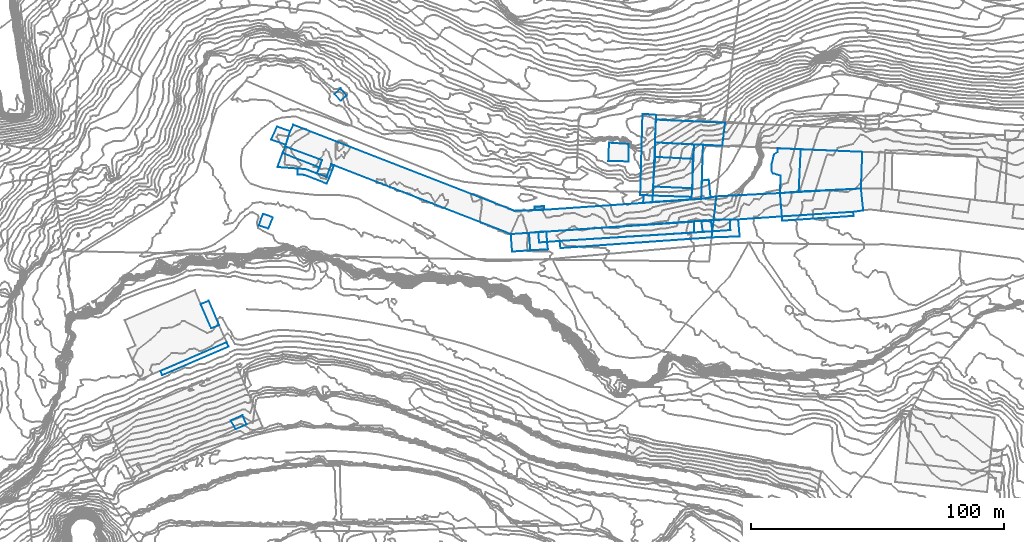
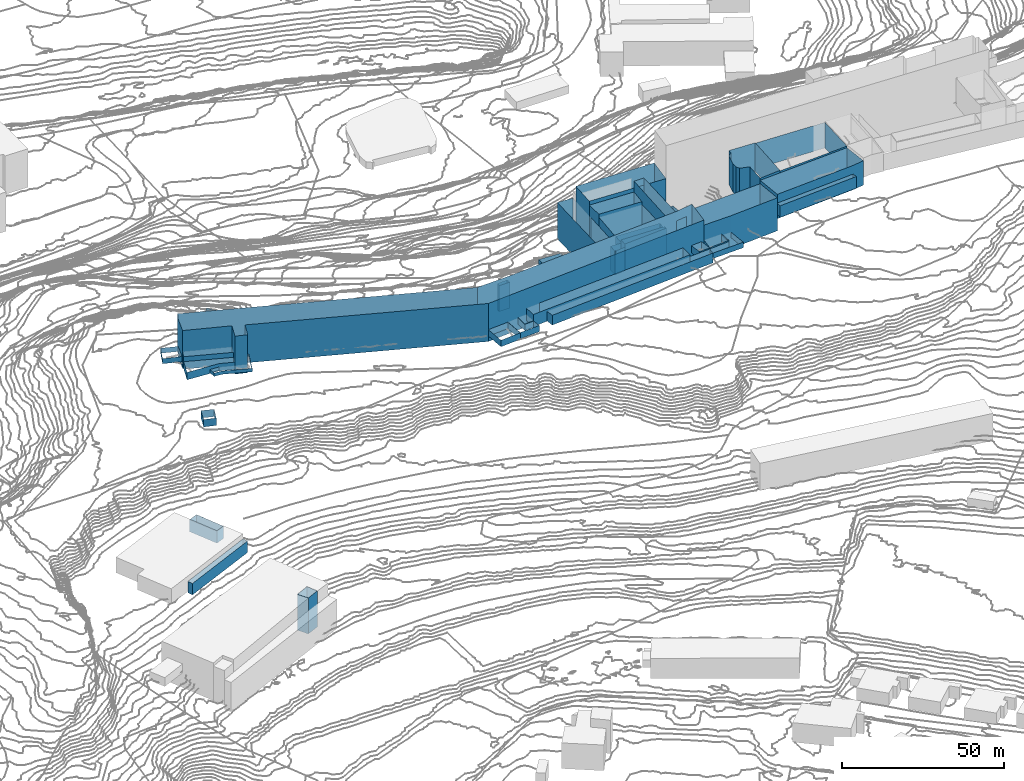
# Not in any storey, part 42 of 419: 34 walls.
"""IFC2X3 model written with IfcOpenShell, lengths in metres."""

from ifc_helpers import new_model, si_unit, frame, origin_with_axes, place, context, subcontext, project, faceted_brep, element, save


model = new_model("IFC2X3")

# Units and contexts
model_context = context("Model", 3, precision=1e-05, world=origin_with_axes())
body_context = subcontext(model_context, "Body", "Model", "MODEL_VIEW")
ifc_project = project(units=[si_unit("AREAUNIT", "SQUARE_METRE"), si_unit("LENGTHUNIT", "METRE")], contexts=[model_context])

# Walls
wall_1_placement = place(None, frame((482.4920204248, 335.3976909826, 61.9800003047), z_axis=(0.0, 0.0, 1.0), x_axis=(1.0, 0.0, 0.0)))
element("IfcWall", 1, at=wall_1_placement, Name="Mur 0", context=body_context, shape_type="Brep", body=[
    faceted_brep([(0.0, 0.0, 2.2199996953), (0.2999999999, 7.2000000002, 2.2199996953), (0.0, 0.0, 0.0), (0.2999999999, 7.2000000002, 0.0), (8.0, -0.2000000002, 2.2199996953), (8.0, -0.2000000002, 0.0), (8.1, 6.7000000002, 2.2199996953), (8.1, 6.7000000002, 0.0)], [[[0, 1, 2]], [[2, 1, 3]], [[4, 0, 5]], [[5, 0, 2]], [[1, 6, 3]], [[3, 6, 7]], [[6, 4, 7]], [[7, 4, 5]]]),
])
wall_2_placement = place(None, frame((500.8920204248, 342.6976909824, 62.8028995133), z_axis=(0.0, 0.0, 1.0), x_axis=(1.0, 0.0, 0.0)))
element("IfcWall", 2, at=wall_2_placement, Name="Mur 0", context=body_context, shape_type="Brep", body=[
    faceted_brep([(0.0, 0.0, 15.4971004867), (15.5, -0.7999999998, 15.4971004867), (0.0, 0.0, 0.0), (15.5, -0.7999999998, 0.0), (0.1, -5.7000000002, 15.4971004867), (0.1, -5.7000000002, 0.0), (15.0, -6.5, 15.4971004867), (15.0, -6.5, 0.0)], [[[0, 1, 2]], [[2, 1, 3]], [[4, 0, 5]], [[5, 0, 2]], [[1, 6, 3]], [[3, 6, 7]], [[6, 4, 7]], [[7, 4, 5]]]),
])
wall_3_placement = place(None, frame((523.5920204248, 307.5976909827, 72.433000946), z_axis=(0.0, 0.0, 1.0), x_axis=(1.0, 0.0, 0.0)))
element("IfcWall", 3, at=wall_3_placement, Name="Mur 0", context=body_context, shape_type="Brep", body=[
    faceted_brep([(7.1, 0.5, 3.166999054), (0.0, 0.0, 3.166999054), (7.1, 0.5, 0.0), (0.0, 0.0, 0.0), (6.9, 4.7000000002, 3.166999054), (6.9, 4.7000000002, 0.0), (0.5, 4.5, 3.166999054), (0.5, 4.5, 0.0)], [[[0, 1, 2]], [[2, 1, 3]], [[4, 0, 5]], [[5, 0, 2]], [[1, 6, 3]], [[3, 6, 7]], [[6, 4, 7]], [[7, 4, 5]]]),
])
wall_4_placement = place(None, frame((453.3920204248, 316.0976909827, 70.8680007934), z_axis=(0.0, 0.0, 1.0), x_axis=(1.0, 0.0, 0.0)))
element("IfcWall", 4, at=wall_4_placement, Name="Mur 0", context=body_context, shape_type="Brep", body=[
    faceted_brep([(3.7, 1.5, 9.8319992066), (3.7999999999, 0.0, 9.8319992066), (3.7, 1.5, 0.0), (3.7999999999, 0.0, 0.0), (0.0, 1.2000000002, 9.8319992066), (0.0, 1.2000000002, 0.0), (0.0, 0.0, 9.8319992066), (0.0, 0.0, 0.0)], [[[0, 1, 2]], [[2, 1, 3]], [[4, 0, 5]], [[5, 0, 2]], [[1, 6, 3]], [[3, 6, 7]], [[6, 4, 7]], [[7, 4, 5]]]),
])
wall_5_placement = place(None, frame((454.9920204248, 307.3976909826, 71.1009986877), z_axis=(0.0, 0.0, 1.0), x_axis=(1.0, 0.0, 0.0)))
element("IfcWall", 5, at=wall_5_placement, Name="Mur 0", context=body_context, shape_type="Brep", body=[
    faceted_brep([(3.1, 0.0999999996, 2.3990013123), (3.2999999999, -4.0, 2.3990013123), (3.1, 0.0999999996, 0.0), (3.2999999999, -4.0, 0.0), (0.0, 0.0, 2.3990013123), (0.0, 0.0, 0.0), (0.1, -4.2000000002, 2.3990013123), (0.1, -4.2000000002, 0.0)], [[[0, 1, 2]], [[2, 1, 3]], [[4, 0, 5]], [[5, 0, 2]], [[1, 6, 3]], [[3, 6, 7]], [[6, 4, 7]], [[7, 4, 5]]]),
])
wall_6_placement = place(None, frame((359.6920204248, 332.3976909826, 70.7447981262), z_axis=(0.0, 0.0, 1.0), x_axis=(1.0, 0.0, 0.0)))
element("IfcWall", 6, at=wall_6_placement, Name="Mur 0", context=body_context, shape_type="Brep", body=[
    faceted_brep([(13.4, 1.7000000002, 1.2552018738), (14.5, 1.2999999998, 1.2552018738), (13.4, 1.7000000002, 0.0), (14.5, 1.2999999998, 0.0), (11.5, -3.2999999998, 1.2552018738), (11.5, -3.2999999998, 0.0), (3.0, -0.2000000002, 1.2552018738), (3.0, -0.2000000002, 0.0), (0.0, 0.0, 1.2552018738), (0.0, 0.0, 0.0), (0.1, -2.2999999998, 1.2552018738), (0.1, -2.2999999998, 0.0), (2.7000000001, -2.5, 1.2552018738), (2.7000000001, -2.5, 0.0), (11.6, -6.0, 1.2552018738), (11.6, -6.0, 0.0)], [[[0, 1, 2]], [[2, 1, 3]], [[4, 0, 5]], [[5, 0, 2]], [[6, 4, 7]], [[7, 4, 5]], [[8, 6, 9]], [[9, 6, 7]], [[10, 8, 11]], [[11, 8, 9]], [[12, 10, 13]], [[13, 10, 11]], [[1, 14, 3]], [[3, 14, 15]], [[14, 12, 15]], [[15, 12, 13]]]),
])
wall_7_placement = place(None, frame((353.7920204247, 338.4976909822, 70.8936001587), z_axis=(0.0, 0.0, 1.0), x_axis=(1.0, 0.0, 0.0)))
element("IfcWall", 7, at=wall_7_placement, Name="Mur 0", context=body_context, shape_type="Brep", body=[
    faceted_brep([(14.6000000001, -5.6999999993, 4.3063998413), (0.0, 0.0, 4.3063998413), (14.6000000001, -5.6999999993, 0.0), (0.0, 0.0, 0.0), (15.6000000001, -2.7999999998, 4.3063998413), (15.6000000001, -2.7999999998, 0.0), (1.1000000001, 2.6000000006, 4.3063998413), (1.1000000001, 2.6000000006, 0.0)], [[[0, 1, 2]], [[2, 1, 3]], [[4, 0, 5]], [[5, 0, 2]], [[1, 6, 3]], [[3, 6, 7]], [[6, 4, 7]], [[7, 4, 5]]]),
])
wall_8_placement = place(None, frame((496.2920204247, 318.7976909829, 68.0380012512), z_axis=(0.0, 0.0, 1.0), x_axis=(1.0, 0.0, 0.0)))
element("IfcWall", 8, at=wall_8_placement, Name="Mur 0", context=body_context, shape_type="Brep", body=[
    faceted_brep([(0.0, 0.0, 8.9619987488), (0.1000000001, 3.0999999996, 8.9619987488), (0.0, 0.0, 0.0), (0.1000000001, 3.0999999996, 0.0), (3.7000000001, 0.3999999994, 8.9619987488), (3.7000000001, 0.3999999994, 0.0), (3.8, 2.8999999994, 8.9619987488), (3.8, 2.8999999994, 0.0)], [[[0, 1, 2]], [[2, 1, 3]], [[4, 0, 5]], [[5, 0, 2]], [[1, 6, 3]], [[3, 6, 7]], [[6, 4, 7]], [[7, 4, 5]]]),
])
wall_9_placement = place(None, frame((500.1920204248, 325.2976909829, 63.6840002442), z_axis=(0.0, 0.0, 1.0), x_axis=(1.0, 0.0, 0.0)))
element("IfcWall", 9, at=wall_9_placement, Name="Mur 0", context=body_context, shape_type="Brep", body=[
    faceted_brep([(0.8, 11.6999999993, 13.5159997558), (15.7000000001, 10.8999999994, 13.5159997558), (0.8, 11.6999999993, 0.0), (15.7000000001, 10.8999999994, 0.0), (0.0, 0.0, 13.5159997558), (0.0, 0.0, 0.0), (15.5, -0.7000000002, 13.5159997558), (15.5, -0.7000000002, 0.0)], [[[0, 1, 2]], [[2, 1, 3]], [[4, 0, 5]], [[5, 0, 2]], [[1, 6, 3]], [[3, 6, 7]], [[6, 4, 7]], [[7, 4, 5]]]),
])
wall_10_placement = place(None, frame((500.8920204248, 342.6976909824, 61.1534983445), z_axis=(0.0, 0.0, 1.0), x_axis=(1.0, 0.0, 0.0)))
element("IfcWall", 10, at=wall_10_placement, Name="Mur 0", context=body_context, shape_type="Brep", body=[
    faceted_brep([(0.3999999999, 9.0, 18.6465016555), (27.7, 7.7999999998, 18.6465016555), (0.3999999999, 9.0, 0.0), (27.7, 7.7999999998, 0.0), (0.0, 0.0, 18.6465016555), (0.0, 0.0, 0.0), (26.6, -1.2999999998, 18.6465016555), (26.6, -1.2999999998, 0.0)], [[[0, 1, 2]], [[2, 1, 3]], [[4, 0, 5]], [[5, 0, 2]], [[1, 6, 3]], [[3, 6, 7]], [[6, 4, 7]], [[7, 4, 5]]]),
])
wall_11_placement = place(None, frame((519.2920204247, 311.4976909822, 72.7560012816), z_axis=(0.0, 0.0, 1.0), x_axis=(1.0, 0.0, 0.0)))
element("IfcWall", 11, at=wall_11_placement, Name="Mur 0", context=body_context, shape_type="Brep", body=[
    faceted_brep([(3.8, 0.3000000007, 2.7439987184), (4.3, -3.8999999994, 2.7439987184), (3.8, 0.3000000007, 0.0), (4.3, -3.8999999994, 0.0), (0.0, 0.0, 2.7439987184), (0.0, 0.0, 0.0), (0.5, -4.0, 2.7439987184), (0.5, -4.0, 0.0)], [[[0, 1, 2]], [[2, 1, 3]], [[4, 0, 5]], [[5, 0, 2]], [[1, 6, 3]], [[3, 6, 7]], [[6, 4, 7]], [[7, 4, 5]]]),
])
wall_12_placement = place(None, frame((443.9920204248, 306.4976909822, 70.7701998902), z_axis=(0.0, 0.0, 1.0), x_axis=(1.0, 0.0, 0.0)))
element("IfcWall", 12, at=wall_12_placement, Name="Mur 0", context=body_context, shape_type="Brep", body=[
    faceted_brep([(0.0, 0.0, 2.4298001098), (7.2, 0.5, 2.4298001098), (0.0, 0.0, 0.0), (7.2, 0.5, 0.0), (0.5, -6.8999999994, 2.4298001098), (0.5, -6.8999999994, 0.0), (7.7, -6.3999999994, 2.4298001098), (7.7, -6.3999999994, 0.0)], [[[0, 1, 2]], [[2, 1, 3]], [[4, 0, 5]], [[5, 0, 2]], [[1, 6, 3]], [[3, 6, 7]], [[6, 4, 7]], [[7, 4, 5]]]),
])
wall_13_placement = place(None, frame((458.0920204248, 307.4976909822, 71.2509986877), z_axis=(0.0, 0.0, 1.0), x_axis=(1.0, 0.0, 0.0)))
element("IfcWall", 13, at=wall_13_placement, Name="Mur 0", context=body_context, shape_type="Brep", body=[
    faceted_brep([(58.2, -0.3999999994, 4.5490013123), (5.2, -3.6999999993, 4.5490013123), (58.2, -0.3999999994, 0.0), (5.2, -3.6999999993, 0.0), (58.2, 3.9000000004, 4.5490013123), (58.2, 3.9000000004, 0.0), (0.0, 0.0, 4.5490013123), (0.0, 0.0, 0.0), (0.2, -4.0999999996, 4.5490013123), (0.2, -4.0999999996, 0.0)], [[[0, 1, 2]], [[2, 1, 3]], [[4, 0, 5]], [[5, 0, 2]], [[6, 4, 7]], [[7, 4, 5]], [[1, 8, 3]], [[3, 8, 9]], [[8, 6, 9]], [[9, 6, 7]]]),
])
wall_14_placement = place(None, frame((546.8920204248, 331.6976909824, 72.5606993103), z_axis=(0.0, 0.0, 1.0), x_axis=(1.0, 0.0, 0.0)))
element("IfcWall", 14, at=wall_14_placement, Name="Mur 0", context=body_context, shape_type="Brep", body=[
    faceted_brep([(0.0, 0.0, 10.7393006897), (0.0, 2.0, 10.7393006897), (0.0, 0.0, 0.0), (0.0, 2.0, 0.0), (0.6, -1.2000000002, 10.7393006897), (0.6, -1.2000000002, 0.0), (3.7, -2.0999999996, 10.7393006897), (3.7, -2.0999999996, 0.0), (3.3999999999, -9.0, 10.7393006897), (3.3999999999, -9.0, 0.0), (10.7999999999, -8.3999999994, 10.7393006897), (10.7999999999, -8.3999999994, 0.0), (11.6, 8.2999999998, 10.7393006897), (11.6, 8.2999999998, 0.0), (2.5, 8.7000000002, 10.7393006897), (2.5, 8.7000000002, 0.0), (2.3999999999, 7.2999999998, 10.7393006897), (2.3999999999, 7.2999999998, 0.0), (1.0, 6.2000000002, 10.7393006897), (1.0, 6.2000000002, 0.0)], [[[0, 1, 2]], [[2, 1, 3]], [[4, 0, 5]], [[5, 0, 2]], [[6, 4, 7]], [[7, 4, 5]], [[8, 6, 9]], [[9, 6, 7]], [[10, 8, 11]], [[11, 8, 9]], [[12, 10, 13]], [[13, 10, 11]], [[14, 12, 15]], [[15, 12, 13]], [[16, 14, 17]], [[17, 14, 15]], [[1, 18, 3]], [[3, 18, 19]], [[18, 16, 19]], [[19, 16, 17]]]),
])
wall_15_placement = place(None, frame((351.7920204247, 332.9976909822, 70.4999981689), z_axis=(0.0, 0.0, 1.0), x_axis=(1.0, 0.0, 0.0)))
element("IfcWall", 15, at=wall_15_placement, Name="Mur 0", context=body_context, shape_type="Brep", body=[
    faceted_brep([(10.9, -0.7999999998, 2.8000018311), (7.9, -0.5999999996, 2.8000018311), (10.9, -0.7999999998, 0.0), (7.9, -0.5999999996, 0.0), (15.6000000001, -2.5999999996, 2.8000018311), (15.6000000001, -2.5999999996, 0.0), (16.6000000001, -0.1999999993, 2.8000018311), (16.6000000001, -0.1999999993, 0.0), (2.0, 5.5, 2.8000018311), (2.0, 5.5, 0.0), (0.0, 0.0, 2.8000018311), (0.0, 0.0, 0.0)], [[[0, 1, 2]], [[2, 1, 3]], [[4, 0, 5]], [[5, 0, 2]], [[6, 4, 7]], [[7, 4, 5]], [[8, 6, 9]], [[9, 6, 7]], [[1, 10, 3]], [[3, 10, 11]], [[10, 8, 11]], [[11, 8, 9]]]),
])
wall_16_placement = place(None, frame((349.2920204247, 343.7976909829, 70.8820007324), z_axis=(0.0, 0.0, 1.0), x_axis=(1.0, 0.0, 0.0)))
element("IfcWall", 16, at=wall_16_placement, Name="Mur 0", context=body_context, shape_type="Brep", body=[
    faceted_brep([(7.5, 3.2999999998, 1.9179992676), (5.8, -2.0, 1.9179992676), (7.5, 3.2999999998, 0.0), (5.8, -2.0, 0.0), (2.3, 5.1999999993, 1.9179992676), (2.3, 5.1999999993, 0.0), (0.0, 0.0, 1.9179992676), (0.0, 0.0, 0.0)], [[[0, 1, 2]], [[2, 1, 3]], [[4, 0, 5]], [[5, 0, 2]], [[1, 6, 3]], [[3, 6, 7]], [[6, 4, 7]], [[7, 4, 5]]]),
])
wall_17_placement = place(None, frame((463.2920204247, 303.7976909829, 71.4100021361), z_axis=(0.0, 0.0, 1.0), x_axis=(1.0, 0.0, 0.0)))
element("IfcWall", 17, at=wall_17_placement, Name="Mur 0", context=body_context, shape_type="Brep", body=[
    faceted_brep([(60.3, 3.7999999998, 3.6899978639), (60.0, 1.3999999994, 3.6899978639), (60.3, 3.7999999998, 0.0), (60.0, 1.3999999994, 0.0), (0.0, 0.0, 3.6899978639), (0.0, 0.0, 0.0), (0.3, -2.8000000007, 3.6899978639), (0.3, -2.8000000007, 0.0)], [[[0, 1, 2]], [[2, 1, 3]], [[4, 0, 5]], [[5, 0, 2]], [[1, 6, 3]], [[3, 6, 7]], [[6, 4, 7]], [[7, 4, 5]]]),
])
wall_18_placement = place(None, frame((519.1920204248, 320.3976909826, 68.262001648), z_axis=(0.0, 0.0, 1.0), x_axis=(1.0, 0.0, 0.0)))
element("IfcWall", 18, at=wall_18_placement, Name="Mur 0", context=body_context, shape_type="Brep", body=[
    faceted_brep([(3.0, 7.5999999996, 11.237998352), (3.7000000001, 0.5, 11.237998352), (3.0, 7.5999999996, 0.0), (3.7000000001, 0.5, 0.0), (0.3, 7.2999999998, 11.237998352), (0.3, 7.2999999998, 0.0), (0.0, 0.0, 11.237998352), (0.0, 0.0, 0.0)], [[[0, 1, 2]], [[2, 1, 3]], [[4, 0, 5]], [[5, 0, 2]], [[1, 6, 3]], [[3, 6, 7]], [[6, 4, 7]], [[7, 4, 5]]]),
])
wall_19_placement = place(None, frame((495.0920204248, 321.9976909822, 60.5035990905), z_axis=(0.0, 0.0, 1.0), x_axis=(1.0, 0.0, 0.0)))
element("IfcWall", 19, at=wall_19_placement, Name="Mur 0", context=body_context, shape_type="Brep", body=[
    faceted_brep([(6.3, 31.6000000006, 13.6964009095), (5.0, -0.2999999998, 13.6964009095), (6.3, 31.6000000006, 0.0), (5.0, -0.2999999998, 0.0), (0.9, 32.0, 13.6964009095), (0.9, 32.0, 0.0), (0.0, 0.0, 13.6964009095), (0.0, 0.0, 0.0)], [[[0, 1, 2]], [[2, 1, 3]], [[4, 0, 5]], [[5, 0, 2]], [[1, 6, 3]], [[3, 6, 7]], [[6, 4, 7]], [[7, 4, 5]]]),
])
wall_20_placement = place(None, frame((374.3920204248, 361.8976909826, 68.7120025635), z_axis=(0.0, 0.0, 1.0), x_axis=(1.0, 0.0, 0.0)))
element("IfcWall", 20, at=wall_20_placement, Name="Mur 0", context=body_context, shape_type="Brep", body=[
    faceted_brep([(2.3999999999, 2.2999999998, 1.1879974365), (4.7, -0.7000000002, 1.1879974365), (2.3999999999, 2.2999999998, 0.0), (4.7, -0.7000000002, 0.0), (0.0, 0.0, 1.1879974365), (0.0, 0.0, 0.0), (2.2999999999, -2.7000000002, 1.1879974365), (2.2999999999, -2.7000000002, 0.0)], [[[0, 1, 2]], [[2, 1, 3]], [[4, 0, 5]], [[5, 0, 2]], [[1, 6, 3]], [[3, 6, 7]], [[6, 4, 7]], [[7, 4, 5]]]),
])
wall_21_placement = place(None, frame((551.0920204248, 311.7976909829, 74.7885005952), z_axis=(0.0, 0.0, 1.0), x_axis=(1.0, 0.0, 0.0)))
element("IfcWall", 21, at=wall_21_placement, Name="Mur 0", context=body_context, shape_type="Brep", body=[
    faceted_brep([(0.0, 0.0, 4.4114994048), (0.0, 1.6999999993, 4.4114994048), (0.0, 0.0, 0.0), (0.0, 1.6999999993, 0.0), (28.3, 1.8999999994, 4.4114994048), (28.3, 1.8999999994, 0.0), (28.1, 3.5, 4.4114994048), (28.1, 3.5, 0.0)], [[[0, 1, 2]], [[2, 1, 3]], [[4, 0, 5]], [[5, 0, 2]], [[1, 6, 3]], [[3, 6, 7]], [[6, 4, 7]], [[7, 4, 5]]]),
])
wall_22_placement = place(None, frame((550.2920204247, 322.6976909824, 73.3091989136), z_axis=(0.0, 0.0, 1.0), x_axis=(1.0, 0.0, 0.0)))
element("IfcWall", 22, at=wall_22_placement, Name="Mur 0", context=body_context, shape_type="Brep", body=[
    faceted_brep([(28.9, -7.3999999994, 9.1908010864), (0.8, -9.2000000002, 9.1908010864), (28.9, -7.3999999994, 0.0), (0.8, -9.2000000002, 0.0), (32.9, -6.7999999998, 9.1908010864), (32.9, -6.7999999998, 0.0), (32.0, 1.7999999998, 9.1908010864), (32.0, 1.7999999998, 0.0), (0.0, 0.0, 9.1908010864), (0.0, 0.0, 0.0)], [[[0, 1, 2]], [[2, 1, 3]], [[4, 0, 5]], [[5, 0, 2]], [[6, 4, 7]], [[7, 4, 5]], [[1, 8, 3]], [[3, 8, 9]], [[8, 6, 9]], [[9, 6, 7]]]),
])
wall_23_placement = place(None, frame((524.0920204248, 312.0976909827, 68.7560028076), z_axis=(0.0, 0.0, 1.0), x_axis=(1.0, 0.0, 0.0)))
element("IfcWall", 23, at=wall_23_placement, Name="Mur 0", context=body_context, shape_type="Brep", body=[
    faceted_brep([(27.0, 1.3999999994, 12.4439971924), (9.7, 0.2000000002, 12.4439971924), (27.0, 1.3999999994, 0.0), (9.7, 0.2000000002, 0.0), (26.2, 10.5999999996, 12.4439971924), (26.2, 10.5999999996, 0.0), (1.1, 9.2999999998, 12.4439971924), (1.1, 9.2999999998, 0.0), (0.0, 0.0, 12.4439971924), (0.0, 0.0, 0.0)], [[[0, 1, 2]], [[2, 1, 3]], [[4, 0, 5]], [[5, 0, 2]], [[6, 4, 7]], [[7, 4, 5]], [[1, 8, 3]], [[3, 8, 9]], [[8, 6, 9]], [[9, 6, 7]]]),
])
wall_24_placement = place(None, frame((523.2920204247, 305.1976909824, 73.017001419), z_axis=(0.0, 0.0, 1.0), x_axis=(1.0, 0.0, 0.0)))
element("IfcWall", 24, at=wall_24_placement, Name="Mur 0", context=body_context, shape_type="Brep", body=[
    faceted_brep([(11.1000000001, 0.4000000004, 2.082998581), (0.0, 0.0, 2.082998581), (11.1000000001, 0.4000000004, 0.0), (0.0, 0.0, 0.0), (10.5, 7.1000000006, 2.082998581), (10.5, 7.1000000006, 0.0), (7.2000000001, 7.1000000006, 2.082998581), (7.2000000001, 7.1000000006, 0.0), (7.4, 2.9000000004, 2.082998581), (7.4, 2.9000000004, 0.0), (0.3, 2.4000000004, 2.082998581), (0.3, 2.4000000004, 0.0)], [[[0, 1, 2]], [[2, 1, 3]], [[4, 0, 5]], [[5, 0, 2]], [[6, 4, 7]], [[7, 4, 5]], [[8, 6, 9]], [[9, 6, 7]], [[1, 10, 3]], [[3, 10, 11]], [[10, 8, 11]], [[11, 8, 9]]]),
])
wall_25_placement = place(None, frame((451.1920204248, 306.9976909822, 70.9462012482), z_axis=(0.0, 0.0, 1.0), x_axis=(1.0, 0.0, 0.0)))
element("IfcWall", 25, at=wall_25_placement, Name="Mur 0", context=body_context, shape_type="Brep", body=[
    faceted_brep([(3.9, -3.7999999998, 2.3537987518), (7.1, -3.5999999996, 2.3537987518), (3.9, -3.7999999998, 0.0), (7.1, -3.5999999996, 0.0), (3.8, 0.4000000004, 2.3537987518), (3.8, 0.4000000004, 0.0), (0.0, 0.0, 2.3537987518), (0.0, 0.0, 0.0), (0.5, -6.8999999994, 2.3537987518), (0.5, -6.8999999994, 0.0), (7.5, -6.5, 2.3537987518), (7.5, -6.5, 0.0)], [[[0, 1, 2]], [[2, 1, 3]], [[4, 0, 5]], [[5, 0, 2]], [[6, 4, 7]], [[7, 4, 5]], [[8, 6, 9]], [[9, 6, 7]], [[1, 10, 3]], [[3, 10, 11]], [[10, 8, 11]], [[11, 8, 9]]]),
])
wall_26_placement = place(None, frame((321.4920204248, 278.8976909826, 56.6435998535), z_axis=(0.0, 0.0, 1.0), x_axis=(1.0, 0.0, 0.0)))
element("IfcWall", 26, at=wall_26_placement, Name="Mur 0", context=body_context, shape_type="Brep", body=[
    faceted_brep([(4.2, -9.5999999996, 4.5564001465), (0.0, 0.0, 4.5564001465), (4.2, -9.5999999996, 0.0), (0.0, 0.0, 0.0), (7.2999999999, -8.2999999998, 4.5564001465), (7.2999999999, -8.2999999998, 0.0), (3.2, 1.2999999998, 4.5564001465), (3.2, 1.2999999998, 0.0)], [[[0, 1, 2]], [[2, 1, 3]], [[4, 0, 5]], [[5, 0, 2]], [[1, 6, 3]], [[3, 6, 7]], [[6, 4, 7]], [[7, 4, 5]]]),
])
wall_27_placement = place(None, frame((354.8920204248, 341.0976909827, 68.7560028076), z_axis=(0.0, 0.0, 1.0), x_axis=(1.0, 0.0, 0.0)))
element("IfcWall", 27, at=wall_27_placement, Name="Mur 0", context=body_context, shape_type="Brep", body=[
    faceted_brep([(170.2999999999, -19.7000000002, 14.3439971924), (169.2, -29.0, 14.3439971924), (170.2999999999, -19.7000000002, 0.0), (169.2, -29.0, 0.0), (164.2999999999, -20.7000000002, 14.3439971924), (164.2999999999, -20.7000000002, 0.0), (102.2999999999, -25.0, 14.3439971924), (102.2999999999, -25.0, 0.0), (90.5, -25.4000000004, 14.3439971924), (90.5, -25.4000000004, 0.0), (3.2, 8.5999999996, 14.3439971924), (3.2, 8.5999999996, 0.0), (1.8999999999, 6.0, 14.3439971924), (1.8999999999, 6.0, 0.0), (0.0, 0.0, 14.3439971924), (0.0, 0.0, 0.0), (14.5, -5.4000000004, 14.3439971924), (14.5, -5.4000000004, 0.0), (12.5, -10.7000000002, 14.3439971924), (12.5, -10.7000000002, 0.0), (16.2999999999, -12.0, 14.3439971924), (16.2999999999, -12.0, 0.0), (18.2, -7.0, 14.3439971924), (18.2, -7.0, 0.0), (89.1, -34.6000000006, 14.3439971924), (89.1, -34.6000000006, 0.0)], [[[0, 1, 2]], [[2, 1, 3]], [[4, 0, 5]], [[5, 0, 2]], [[6, 4, 7]], [[7, 4, 5]], [[8, 6, 9]], [[9, 6, 7]], [[10, 8, 11]], [[11, 8, 9]], [[12, 10, 13]], [[13, 10, 11]], [[14, 12, 15]], [[15, 12, 13]], [[16, 14, 17]], [[17, 14, 15]], [[18, 16, 19]], [[19, 16, 17]], [[20, 18, 21]], [[21, 18, 19]], [[22, 20, 23]], [[23, 20, 21]], [[1, 24, 3]], [[3, 24, 25]], [[24, 22, 25]], [[25, 22, 23]]]),
])
wall_28_placement = place(None, frame((515.3920204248, 320.1976909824, 66.7630004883), z_axis=(0.0, 0.0, 1.0), x_axis=(1.0, 0.0, 0.0)))
element("IfcWall", 28, at=wall_28_placement, Name="Mur 0", context=body_context, shape_type="Brep", body=[
    faceted_brep([(4.5, 21.7000000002, 15.6369995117), (3.7999999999, 0.2000000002, 15.6369995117), (4.5, 21.7000000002, 0.0), (3.7999999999, 0.2000000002, 0.0), (1.0, 21.7000000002, 15.6369995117), (1.0, 21.7000000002, 0.0), (0.0, 0.0, 15.6369995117), (0.0, 0.0, 0.0)], [[[0, 1, 2]], [[2, 1, 3]], [[4, 0, 5]], [[5, 0, 2]], [[1, 6, 3]], [[3, 6, 7]], [[6, 4, 7]], [[7, 4, 5]]]),
])
wall_29_placement = place(None, frame((500.0920204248, 321.6976909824, 67.9910018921), z_axis=(0.0, 0.0, 1.0), x_axis=(1.0, 0.0, 0.0)))
element("IfcWall", 29, at=wall_29_placement, Name="Mur 0", context=body_context, shape_type="Brep", body=[
    faceted_brep([(0.1, 3.6000000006, 9.3089981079), (15.6, 2.9000000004, 9.3089981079), (0.1, 3.6000000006, 0.0), (15.6, 2.9000000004, 0.0), (0.0, 0.0, 9.3089981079), (0.0, 0.0, 0.0), (15.3, -0.5, 9.3089981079), (15.3, -0.5, 0.0)], [[[0, 1, 2]], [[2, 1, 3]], [[4, 0, 5]], [[5, 0, 2]], [[1, 6, 3]], [[3, 6, 7]], [[6, 4, 7]], [[7, 4, 5]]]),
])
wall_30_placement = place(None, frame((557.6920204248, 323.2976909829, 73.4162023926), z_axis=(0.0, 0.0, 1.0), x_axis=(1.0, 0.0, 0.0)))
element("IfcWall", 30, at=wall_30_placement, Name="Mur 0", context=body_context, shape_type="Brep", body=[
    faceted_brep([(24.6, 1.1999999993, 9.6837976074), (0.0, 0.0, 9.6837976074), (24.6, 1.1999999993, 0.0), (0.0, 0.0, 0.0), (25.1, 15.6999999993, 9.6837976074), (25.1, 15.6999999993, 0.0), (0.8, 16.6999999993, 9.6837976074), (0.8, 16.6999999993, 0.0)], [[[0, 1, 2]], [[2, 1, 3]], [[4, 0, 5]], [[5, 0, 2]], [[1, 6, 3]], [[3, 6, 7]], [[6, 4, 7]], [[7, 4, 5]]]),
])
wall_31_placement = place(None, frame((499.9920204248, 319.1976909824, 68.3109996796), z_axis=(0.0, 0.0, 1.0), x_axis=(1.0, 0.0, 0.0)))
element("IfcWall", 31, at=wall_31_placement, Name="Mur 0", context=body_context, shape_type="Brep", body=[
    faceted_brep([(0.1, 2.5, 9.8890003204), (15.4, 2.0, 9.8890003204), (0.1, 2.5, 0.0), (15.4, 2.0, 0.0), (0.0, 0.0, 9.8890003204), (0.0, 0.0, 0.0), (15.4, 1.0, 9.8890003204), (15.4, 1.0, 0.0)], [[[0, 1, 2]], [[2, 1, 3]], [[4, 0, 5]], [[5, 0, 2]], [[1, 6, 3]], [[3, 6, 7]], [[6, 4, 7]], [[7, 4, 5]]]),
])
wall_32_placement = place(None, frame((305.5920204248, 252.4976909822, 55.1826000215), z_axis=(0.0, 0.0, 1.0), x_axis=(1.0, 0.0, 0.0)))
element("IfcWall", 32, at=wall_32_placement, Name="Mur 0", context=body_context, shape_type="Brep", body=[
    faceted_brep([(26.9, 9.6000000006, 4.3173999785), (0.7, -1.6999999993, 4.3173999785), (26.9, 9.6000000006, 0.0), (0.7, -1.6999999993, 0.0), (26.2, 11.3000000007, 4.3173999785), (26.2, 11.3000000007, 0.0), (0.0, 0.0, 4.3173999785), (0.0, 0.0, 0.0)], [[[0, 1, 2]], [[2, 1, 3]], [[4, 0, 5]], [[5, 0, 2]], [[1, 6, 3]], [[3, 6, 7]], [[6, 4, 7]], [[7, 4, 5]]]),
])
wall_33_placement = place(None, frame((344.3920204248, 309.8976909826, 69.3180000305), z_axis=(0.0, 0.0, 1.0), x_axis=(1.0, 0.0, 0.0)))
element("IfcWall", 33, at=wall_33_placement, Name="Mur 0", context=body_context, shape_type="Brep", body=[
    faceted_brep([(5.6, 3.2000000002, 2.7819999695), (3.7999999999, -1.2000000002, 2.7819999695), (5.6, 3.2000000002, 0.0), (3.7999999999, -1.2000000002, 0.0), (1.7, 4.5999999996, 2.7819999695), (1.7, 4.5999999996, 0.0), (0.0, 0.0, 2.7819999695), (0.0, 0.0, 0.0)], [[[0, 1, 2]], [[2, 1, 3]], [[4, 0, 5]], [[5, 0, 2]], [[1, 6, 3]], [[3, 6, 7]], [[6, 4, 7]], [[7, 4, 5]]]),
])
wall_34_placement = place(None, frame((333.3920204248, 232.8976909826, 43.2073001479), z_axis=(0.0, 0.0, 1.0), x_axis=(1.0, 0.0, 0.0)))
element("IfcWall", 34, at=wall_34_placement, Name="Mur 0", context=body_context, shape_type="Brep", body=[
    faceted_brep([(6.2, -1.5, 13.5926998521), (1.8999999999, -3.4000000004, 13.5926998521), (6.2, -1.5, 0.0), (1.8999999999, -3.4000000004, 0.0), (4.6, 2.0999999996, 13.5926998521), (4.6, 2.0999999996, 0.0), (0.0, 0.0, 13.5926998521), (0.0, 0.0, 0.0)], [[[0, 1, 2]], [[2, 1, 3]], [[4, 0, 5]], [[5, 0, 2]], [[1, 6, 3]], [[3, 6, 7]], [[6, 4, 7]], [[7, 4, 5]]]),
])

save(model, "model.ifc")
